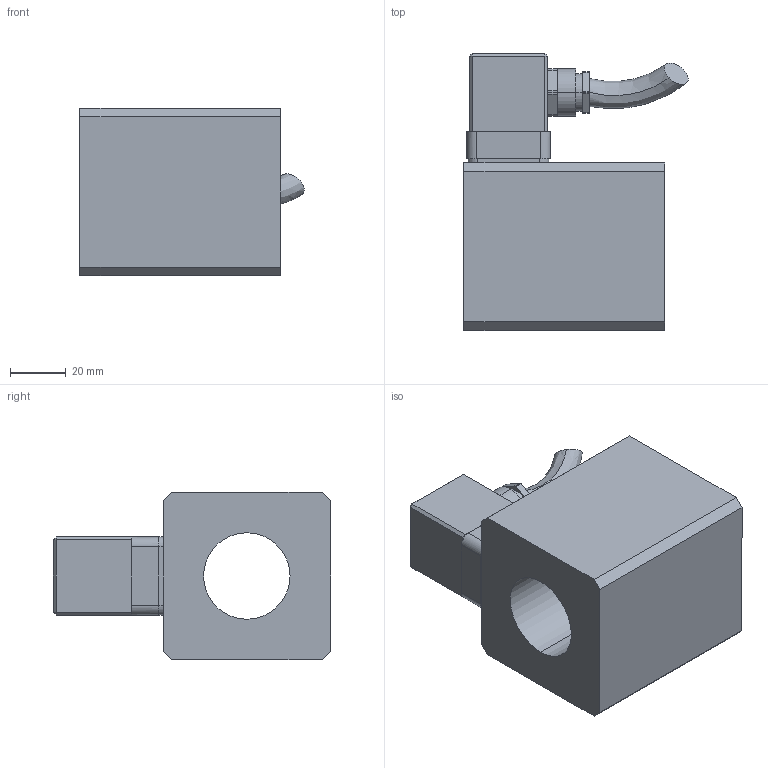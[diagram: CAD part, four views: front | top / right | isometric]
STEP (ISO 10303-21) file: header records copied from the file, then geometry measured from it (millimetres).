
FILE_DESCRIPTION (( 'STEP AP214' ), '1' );
FILE_NAME ('MKS60_31x72-M28-AC.STEP', '2015-07-17T07:51:19', ( '' ), ( '' ), 'SwSTEP 2.0', 'SolidWorks 2014', '' );
FILE_SCHEMA (( 'AUTOMOTIVE_DESIGN' ));
Length unit declared in the file: millimetre
Products named in the file (2): MKS60_31x72-M28-AC
Bounding box: 80.36 x 99.3 x 60 mm (x, y, z)
Volume: 245776.5 mm3; surface area: 47529 mm2
Topology: 4 solids, 10 shells, 364 faces, 917 edges, 585 vertices
Faces by surface type: plane 222, cylinder 108, cone 22, torus 10, bspline 2
Entity records: 14987 total; most frequent: CARTESIAN_POINT 2136, DIRECTION 1907, ORIENTED_EDGE 1818, EDGE_CURVE 909, AXIS2_PLACEMENT_3D 659, LINE 589, VECTOR 589, VERTEX_POINT 585
